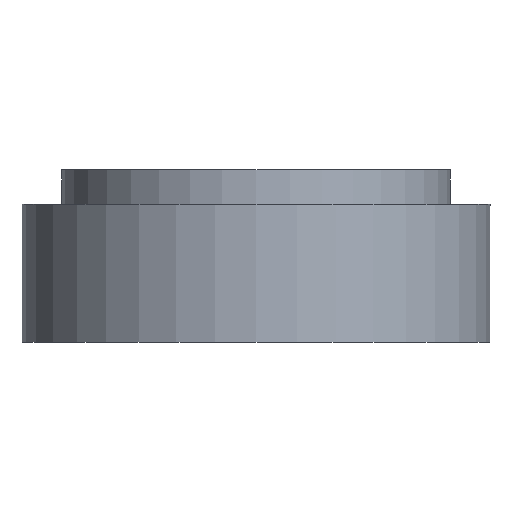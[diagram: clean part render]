
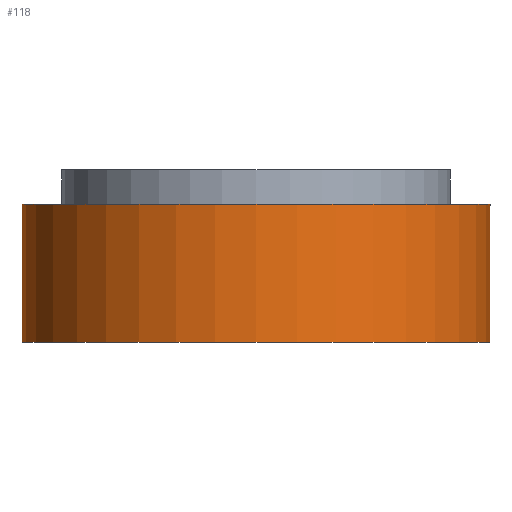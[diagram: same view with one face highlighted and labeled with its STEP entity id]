
A CAD part, left-side view. The second image highlights one B-rep face of the part: STEP entity #118.
In plain terms, the highlighted cylindrical face has radius 27 mm (diameter 54 mm), a partial arc.
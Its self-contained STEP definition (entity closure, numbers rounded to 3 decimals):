
#118=ADVANCED_FACE('',(#188),#622,.T.);
#188=FACE_OUTER_BOUND('',#258,.F.);
#258=EDGE_LOOP('',(#348,#349,#350,#351));
#348=ORIENTED_EDGE('',*,*,#780,.F.);
#349=ORIENTED_EDGE('',*,*,#774,.F.);
#350=ORIENTED_EDGE('',*,*,#781,.T.);
#351=ORIENTED_EDGE('',*,*,#775,.T.);
#622=CYLINDRICAL_SURFACE('',#1134,27.);
#658=LINE('',#1672,#714);
#659=LINE('',#1673,#715);
#714=VECTOR('',#1249,15.891);
#715=VECTOR('',#1250,15.891);
#774=EDGE_CURVE('',#1042,#1044,#658,.T.);
#775=EDGE_CURVE('',#1043,#1045,#659,.T.);
#780=EDGE_CURVE('',#1044,#1045,#916,.T.);
#781=EDGE_CURVE('',#1042,#1043,#917,.T.);
#916=CIRCLE('',#1086,27.);
#917=CIRCLE('',#1087,27.);
#1042=VERTEX_POINT('',#1664);
#1043=VERTEX_POINT('',#1665);
#1044=VERTEX_POINT('',#1666);
#1045=VERTEX_POINT('',#1667);
#1086=AXIS2_PLACEMENT_3D('',#1678,#1257,#1258);
#1087=AXIS2_PLACEMENT_3D('',#1679,#1259,#1260);
#1134=AXIS2_PLACEMENT_3D('',#1754,#1381,#1382);
#1249=DIRECTION('',(0.,0.,-1.));
#1250=DIRECTION('',(0.,0.,-1.));
#1257=DIRECTION('',(0.,0.,1.));
#1258=DIRECTION('',(0.,1.,0.));
#1259=DIRECTION('',(0.,0.,1.));
#1260=DIRECTION('',(0.,1.,0.));
#1381=DIRECTION('',(0.,0.,1.));
#1382=DIRECTION('',(0.,1.,0.));
#1664=CARTESIAN_POINT('',(-203.258,13.67,-768.935));
#1665=CARTESIAN_POINT('',(-203.258,-40.33,-768.935));
#1666=CARTESIAN_POINT('',(-203.258,13.67,-784.827));
#1667=CARTESIAN_POINT('',(-203.258,-40.33,-784.827));
#1672=CARTESIAN_POINT('',(-203.258,13.67,-768.935));
#1673=CARTESIAN_POINT('',(-203.258,-40.33,-768.935));
#1678=CARTESIAN_POINT('',(-203.258,-13.33,-784.827));
#1679=CARTESIAN_POINT('',(-203.258,-13.33,-768.935));
#1754=CARTESIAN_POINT('',(-203.258,-13.33,-768.935));
